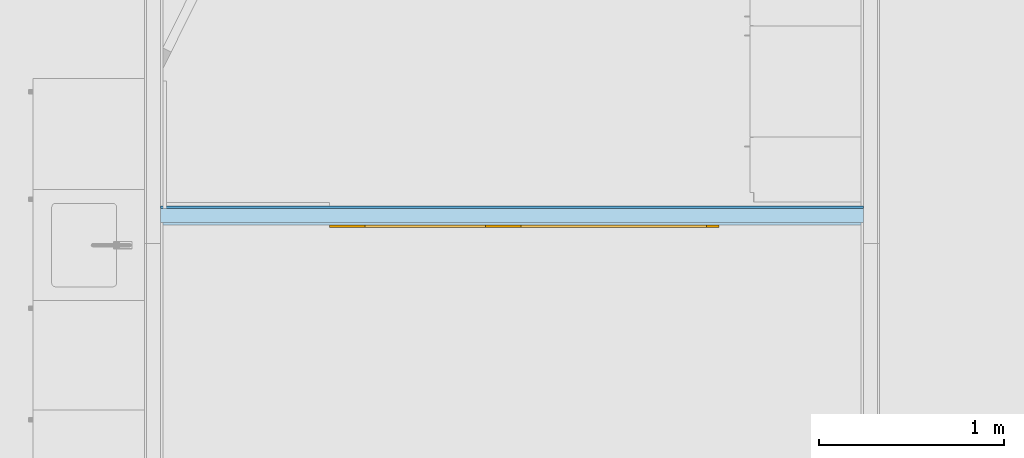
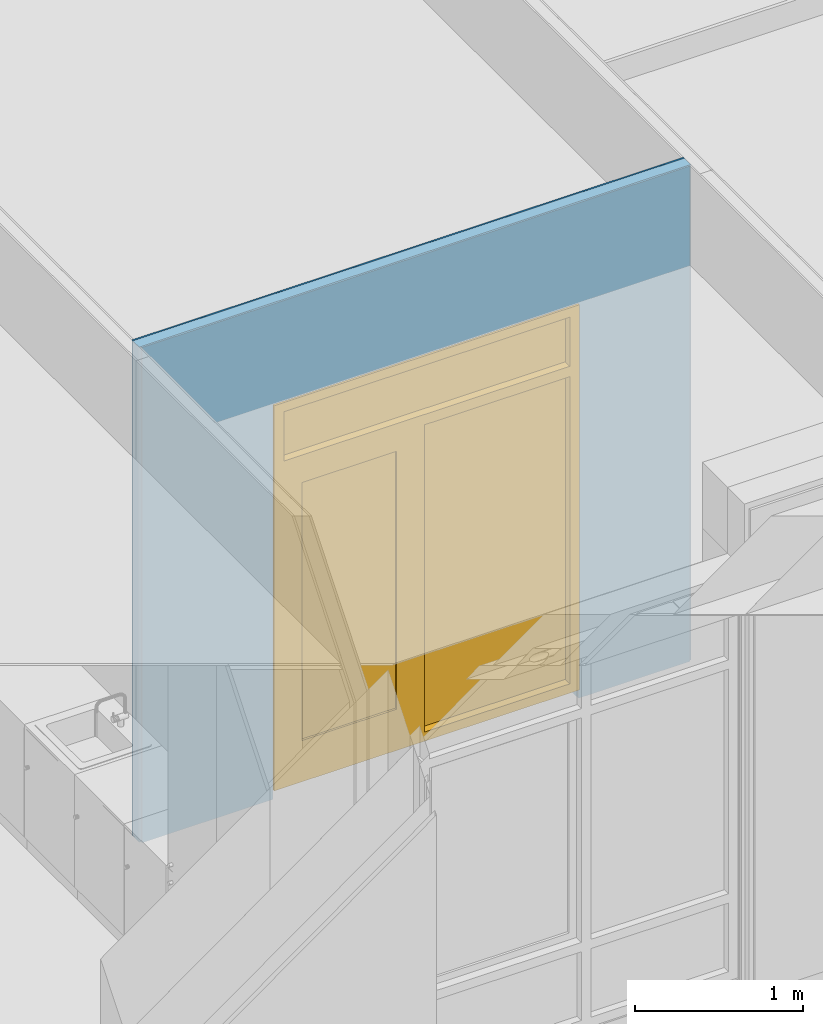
# One storey, part 49 of 167: 1 building element part, 1 door, 1 opening, 1 element without a shape of its own, plus 2 elements that do not belong to this part.
"""IFC2X3 building model written with IfcOpenShell, lengths in millimetres."""

from ifc_helpers import new_model, entity, si_unit, converted_unit, derived_unit, money_unit, direction, frame, origin_with_axes, place, context, subcontext, project, spatial, open_shell, faceted_brep, surface_model, material, type_object, element, fill, aggregate, save


model = new_model("IFC2X3")

# Units and contexts
model_context = context("Model", 3, precision=0.01, world=origin_with_axes(), true_north=direction((0.0, 1.0)))
plan_context = context("Plan", 3, precision=0.01, world=origin_with_axes(), true_north=direction((0.0, 1.0)))
body_context = subcontext(model_context, "Body", "Model", "MODEL_VIEW")
ifc_project = project(units=[si_unit("LENGTHUNIT", "METRE", prefix="MILLI"), si_unit("AREAUNIT", "SQUARE_METRE"), si_unit("VOLUMEUNIT", "CUBIC_METRE"), converted_unit("PLANEANGLEUNIT", "DEGREE", entity("IfcPlaneAngleMeasure", 0.0174532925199), si_unit("PLANEANGLEUNIT", "RADIAN"), dimensions=[0, 0, 0, 0, 0, 0, 0]), si_unit("SOLIDANGLEUNIT", "STERADIAN"), money_unit("EUR"), converted_unit("TIMEUNIT", "Year", entity("IfcTimeMeasure", 31556926.0), si_unit("TIMEUNIT", "SECOND"), dimensions=[0, 0, 1, 0, 0, 0, 0]), si_unit("MASSUNIT", "GRAM", prefix="KILO"), si_unit("THERMODYNAMICTEMPERATUREUNIT", "DEGREE_CELSIUS"), si_unit("LUMINOUSINTENSITYUNIT", "LUMEN"), si_unit("ENERGYUNIT", "JOULE", prefix="MEGA"), derived_unit("THERMALCONDUCTANCEUNIT", [(si_unit("POWERUNIT", "WATT"), 1), (si_unit("LENGTHUNIT", "METRE"), -1), (si_unit("THERMODYNAMICTEMPERATUREUNIT", "KELVIN"), -1)]), derived_unit("SPECIFICHEATCAPACITYUNIT", [(si_unit("ENERGYUNIT", "JOULE"), 1), (si_unit("MASSUNIT", "GRAM", prefix="KILO"), -1), (si_unit("THERMODYNAMICTEMPERATUREUNIT", "KELVIN"), -1)]), derived_unit("MASSDENSITYUNIT", [(si_unit("MASSUNIT", "GRAM", prefix="KILO"), 1), (si_unit("VOLUMEUNIT", "CUBIC_METRE"), -1)])], contexts=[model_context, plan_context])

# Site, building, storey
site_placement = place(None, origin_with_axes())
site = spatial("IfcSite", under=ifc_project, at=site_placement, Name="Site", CompositionType="ELEMENT")
building_placement = place(site_placement, origin_with_axes())
building = spatial("IfcBuilding", under=site, at=building_placement, Name="Naam gebouw", CompositionType="ELEMENT")
storey_placement = place(building_placement, origin_with_axes())
storey = spatial("IfcBuildingStorey", under=building, at=storey_placement, Name="Begane grond", CompositionType="ELEMENT", Elevation=0.0)

# Door
door_style = type_object("IfcDoorStyle", Name="D1 bl zl1-b 24", ConstructionType="NOTDEFINED", OperationType="SINGLE_SWING_RIGHT", ParameterTakesPrecedence=False, Sizeable=False)
wall_placement = place(storey_placement, frame((10531.8272344, 3650.0, -100.0), z_axis=(0.0, 0.0, 1.0), x_axis=(1.0, 0.0, 0.0)))
opening_placement = place(wall_placement, frame((2000.0, 0.0, 100.0), z_axis=(0.0, 0.0, 1.0), x_axis=(1.0, 0.0, 0.0)))
door_placement = place(opening_placement, frame((1050.0, 0.0, 0.0), z_axis=(0.0, 0.0, 1.0), x_axis=(-1.0, 0.0, 0.0)))
door = element("IfcDoor", 1, at=door_placement, inside=storey, type_object=door_style, Name="32_Deur_Hi-52s", ObjectType="DOOR", OverallHeight=2800.0, OverallWidth=2100.0, context=body_context, shape_type="SurfaceModel", body=[
    faceted_brep([(0.0, 64.0, 0.0), (67.0, 64.0, 0.0), (67.0, -50.0, 0.0), (0.0, -50.0, 0.0), (0.0, 64.0, 2733.0), (67.0, 64.0, 2733.0), (67.0, 64.0, 2375.0), (67.0, 64.0, 2300.0), (67.0, 64.0, 67.0), (67.0, -50.0, 67.0), (67.0, -50.0, 2300.0), (67.0, -50.0, 2375.0), (67.0, -50.0, 2733.0), (0.0, -50.0, 2733.0)], [[[0, 1, 2, 3]], [[0, 4, 5, 6, 7, 8, 1]], [[1, 8, 9, 2]], [[3, 2, 9, 10, 11, 12, 13]], [[4, 0, 3, 13]], [[5, 4, 13, 12]], [[6, 5, 12, 11]], [[7, 6, 11, 10]], [[8, 7, 10, 9]]]),
    faceted_brep([(1133.0, 24.0, 0.0), (1133.0, 24.0, 2300.0), (1133.0, -50.0, 2300.0), (1133.0, -50.0, 0.0), (1108.0, 24.0, 2300.0), (1108.0, 24.0, 0.0), (1108.0, 64.0, 2300.0), (1066.0, 64.0, 2300.0), (1066.0, -50.0, 2300.0), (1066.0, -50.0, 0.0), (1066.0, -50.0, 67.0), (1066.0, 64.0, 0.0), (1108.0, 64.0, 0.0), (1066.0, 64.0, 67.0)], [[[0, 1, 2, 3]], [[4, 1, 0, 5]], [[4, 6, 7, 8, 2, 1]], [[9, 3, 2, 8, 10]], [[5, 0, 3, 9, 11, 12]], [[6, 4, 5, 12]], [[6, 12, 11, 13, 7]], [[13, 10, 8, 7]], [[11, 9, 10, 13]]]),
    faceted_brep([(67.0, 64.0, 67.0), (67.0, 64.0, 0.0), (67.0, -50.0, 0.0), (67.0, -50.0, 67.0), (1066.0, 64.0, 67.0), (1066.0, 64.0, 0.0), (1066.0, -50.0, 0.0), (1066.0, -50.0, 67.0)], [[[0, 1, 2, 3]], [[0, 4, 5, 1]], [[1, 5, 6, 2]], [[3, 2, 6, 7]], [[4, 0, 3, 7]], [[5, 4, 7, 6]]]),
    faceted_brep([(2058.0, 64.0, 2325.0), (2033.0, 64.0, 2325.0), (2033.0, 64.0, 2375.0), (2033.0, 64.0, 2733.0), (2100.0, 64.0, 2733.0), (2100.0, 64.0, 0.0), (2058.0, 64.0, 0.0), (2058.0, 24.0, 2325.0), (2033.0, 24.0, 2325.0), (2033.0, 24.0, 0.0), (2033.0, -50.0, 0.0), (2033.0, -50.0, 2300.0), (2033.0, -50.0, 2375.0), (2033.0, -50.0, 2733.0), (2100.0, -50.0, 2733.0), (2100.0, -50.0, 0.0), (2058.0, 24.0, 0.0)], [[[0, 1, 2, 3, 4, 5, 6]], [[1, 0, 7, 8]], [[8, 9, 10, 11, 12, 2, 1]], [[2, 12, 13, 3]], [[3, 13, 14, 4]], [[4, 14, 15, 5]], [[16, 6, 5, 15, 10, 9]], [[0, 6, 16, 7]], [[16, 9, 8, 7]], [[12, 11, 10, 15, 14, 13]]]),
    faceted_brep([(0.0, 64.0, 2800.0), (0.0, 64.0, 2733.0), (0.0, -50.0, 2733.0), (0.0, -50.0, 2800.0), (2100.0, 64.0, 2800.0), (2100.0, 64.0, 2733.0), (2033.0, 64.0, 2733.0), (67.0, 64.0, 2733.0), (67.0, -50.0, 2733.0), (2033.0, -50.0, 2733.0), (2100.0, -50.0, 2733.0), (2100.0, -50.0, 2800.0)], [[[0, 1, 2, 3]], [[0, 4, 5, 6, 7, 1]], [[1, 7, 8, 2]], [[3, 2, 8, 9, 10, 11]], [[4, 0, 3, 11]], [[5, 4, 11, 10]], [[6, 5, 10, 9]], [[7, 6, 9, 8]]]),
    faceted_brep([(2033.0, 24.0, 2325.0), (2033.0, 64.0, 2325.0), (2033.0, 64.0, 2375.0), (2033.0, -50.0, 2375.0), (2033.0, -50.0, 2300.0), (2033.0, 24.0, 2300.0), (1108.0, 24.0, 2325.0), (1108.0, 64.0, 2325.0), (1108.0, 64.0, 2300.0), (1066.0, 64.0, 2300.0), (67.0, 64.0, 2300.0), (67.0, 64.0, 2375.0), (67.0, -50.0, 2375.0), (1133.0, -50.0, 2300.0), (67.0, -50.0, 2300.0), (1066.0, -50.0, 2300.0), (1133.0, 24.0, 2300.0), (1108.0, 24.0, 2300.0)], [[[0, 1, 2, 3, 4, 5]], [[1, 0, 6, 7]], [[7, 8, 9, 10, 11, 2, 1]], [[11, 12, 3, 2]], [[13, 4, 3, 12, 14, 15]], [[16, 5, 4, 13]], [[0, 5, 16, 17, 6]], [[8, 7, 6, 17]], [[17, 16, 13, 15, 9, 8]], [[9, 15, 14, 10]], [[10, 14, 12, 11]]]),
    faceted_brep([(2058.0, 64.0, 300.0), (2058.0, 24.0, 300.0), (1908.0, 24.0, 300.0), (1908.0, 64.0, 300.0), (2058.0, 64.0, 2175.0), (2058.0, 24.0, 2175.0), (1908.0, 24.0, 2175.0), (1908.0, 64.0, 2175.0)], [[[0, 1, 2, 3]], [[4, 5, 1, 0]], [[1, 5, 6, 2]], [[3, 2, 6, 7]], [[0, 3, 7, 4]], [[7, 6, 5, 4]]]),
    faceted_brep([(1108.0, 64.0, 300.0), (1108.0, 24.0, 300.0), (1108.0, 24.0, 2175.0), (1108.0, 64.0, 2175.0), (1258.0, 64.0, 300.0), (1258.0, 24.0, 300.0), (1258.0, 24.0, 2175.0), (1258.0, 64.0, 2175.0)], [[[0, 1, 2, 3]], [[4, 5, 1, 0]], [[1, 5, 6, 2]], [[3, 2, 6, 7]], [[0, 3, 7, 4]], [[7, 6, 5, 4]]]),
    faceted_brep([(2058.0, 64.0, 0.0), (2058.0, 24.0, 0.0), (1108.0, 24.0, 0.0), (1108.0, 64.0, 0.0), (2058.0, 64.0, 300.0), (2058.0, 24.0, 300.0), (1908.0, 24.0, 300.0), (1258.0, 24.0, 300.0), (1108.0, 24.0, 300.0), (1108.0, 64.0, 300.0), (1258.0, 64.0, 300.0), (1908.0, 64.0, 300.0)], [[[0, 1, 2, 3]], [[4, 5, 1, 0]], [[1, 5, 6, 7, 8, 2]], [[3, 2, 8, 9]], [[0, 3, 9, 10, 11, 4]], [[11, 6, 5, 4]], [[10, 7, 6, 11]], [[9, 8, 7, 10]]]),
    faceted_brep([(2058.0, 64.0, 2325.0), (2058.0, 24.0, 2325.0), (2058.0, 24.0, 2175.0), (2058.0, 64.0, 2175.0), (1108.0, 64.0, 2325.0), (1108.0, 24.0, 2325.0), (1108.0, 24.0, 2175.0), (1258.0, 24.0, 2175.0), (1908.0, 24.0, 2175.0), (1908.0, 64.0, 2175.0), (1258.0, 64.0, 2175.0), (1108.0, 64.0, 2175.0)], [[[0, 1, 2, 3]], [[4, 5, 1, 0]], [[1, 5, 6, 7, 8, 2]], [[3, 2, 8, 9]], [[0, 3, 9, 10, 11, 4]], [[11, 6, 5, 4]], [[10, 7, 6, 11]], [[9, 8, 7, 10]]]),
    surface_model("IfcShellBasedSurfaceModel", [(1908.0, 50.0, 300.0), (1258.0, 50.0, 300.0), (1258.0, 50.0, 2175.0), (1908.0, 50.0, 2175.0)], [open_shell([[[0, 1, 2, 3]]])]),
    surface_model("IfcShellBasedSurfaceModel", [(1908.0, 38.0, 300.0), (1908.0, 38.0, 2175.0), (1258.0, 38.0, 2175.0), (1258.0, 38.0, 300.0)], [open_shell([[[0, 1, 2, 3]]])]),
    surface_model("IfcShellBasedSurfaceModel", [(67.0, 10.0, 2375.0), (67.0, 10.0, 2733.0), (2033.0, 10.0, 2733.0), (2033.0, 10.0, 2375.0)], [open_shell([[[0, 1, 2, 3]]])]),
    surface_model("IfcShellBasedSurfaceModel", [(67.0, -2.0, 2375.0), (2033.0, -2.0, 2375.0), (2033.0, -2.0, 2733.0), (67.0, -2.0, 2733.0)], [open_shell([[[0, 1, 2, 3]]])]),
    surface_model("IfcShellBasedSurfaceModel", [(67.0, 10.0, 67.0), (67.0, 10.0, 2300.0), (1066.0, 10.0, 2300.0), (1066.0, 10.0, 67.0)], [open_shell([[[0, 1, 2, 3]]])]),
    surface_model("IfcShellBasedSurfaceModel", [(67.0, -2.0, 67.0), (1066.0, -2.0, 67.0), (1066.0, -2.0, 2300.0), (67.0, -2.0, 2300.0)], [open_shell([[[0, 1, 2, 3]]])]),
])

# Wall, opening
wall_type = type_object("IfcWallType", Name="_TenW_22_Metalstud 100 enkel gipsvezelplaat 100", PredefinedType="NOTDEFINED")
wall = element("IfcWall", 2, at=wall_placement, inside=storey, type_object=wall_type, Name="22_Wand_Wand-x")
opening = element("IfcOpeningElement", 3, at=opening_placement, cuts=wall, Name="32_Deur_Hi-52s", context=body_context, shape_type="Brep", body=[
    faceted_brep([(-1050.0, -100.0, 0.0), (-1050.0, -100.0, 2800.0), (-1050.0, 200.0, 2800.0), (-1050.0, 200.0, 0.0), (1050.0, -100.0, 0.0), (1050.0, -100.0, 2800.0), (1050.0, 200.0, 2800.0), (1050.0, 200.0, 0.0)], [[[0, 1, 2, 3]], [[0, 4, 5, 1]], [[1, 5, 6, 2]], [[3, 2, 6, 7]], [[4, 0, 3, 7]], [[5, 4, 7, 6]]]),
])

fill(opening, door)

# Building element part
ifc_material_1 = material(Name="Gipsplaat watervast")
building_element_part_1_placement = place(wall_placement, origin_with_axes())
building_element_part_1 = element("IfcBuildingElementPart", 4, at=building_element_part_1_placement, material=ifc_material_1, Name="Gipsplaat watervast", context=body_context, shape_type="Brep", body=[
    faceted_brep([(950.0, 50.0, 2900.0), (950.0, 50.0, 100.0), (950.0, 50.0, 30.0), (37.5, 50.0, 30.0), (37.5, 50.0, 3629.99999709), (3830.67276555, 50.0, 3629.99999752), (3830.67276555, 50.0, 30.0), (3050.0, 50.0, 30.0), (3050.0, 50.0, 100.0), (3050.0, 50.0, 2900.0), (50.0, 50.0, 100.0), (70.0, 50.0, 100.0), (70.0, 50.0, 1300.0), (50.0, 50.0, 1300.0), (950.0, 37.5, 2900.0), (950.0, 37.5, 100.0), (950.0, 37.5, 30.0), (37.5, 37.5, 30.0), (37.5, 37.5, 3629.99999709), (3830.67276555, 37.5, 3629.99999752), (3830.67276555, 37.5, 30.0), (3050.0, 37.5, 30.0), (3050.0, 37.5, 100.0), (3050.0, 37.5, 2900.0), (50.0, 37.5, 100.0), (70.0, 37.5, 100.0), (70.0, 37.5, 1300.0), (50.0, 37.5, 1300.0)], [[[0, 1, 2, 3, 4, 5, 6, 7, 8, 9], [10, 11, 12, 13]], [[1, 0, 14, 15]], [[1, 15, 16, 2]], [[16, 17, 3, 2]], [[17, 18, 4, 3]], [[19, 5, 4, 18]], [[6, 5, 19, 20]], [[7, 6, 20, 21]], [[22, 8, 7, 21]], [[9, 8, 22, 23]], [[0, 9, 23, 14]], [[11, 10, 24, 25]], [[12, 11, 25, 26]], [[13, 12, 26, 27]], [[10, 13, 27, 24]], [[23, 22, 21, 20, 19, 18, 17, 16, 15, 14], [24, 27, 26, 25]]]),
])

ifc_material_2 = material(Name="Isolatie - Steenwol zacht")
building_element_part_2_placement = place(wall_placement, origin_with_axes())
building_element_part_2 = element("IfcBuildingElementPart", 5, at=building_element_part_2_placement, material=ifc_material_2, Name="Isolatie - Steenwol zacht", context=body_context, shape_type="Brep", body=[
    faceted_brep([(950.0, 37.5, 2900.0), (950.0, 37.5, 100.0), (950.0, 37.5, 30.0), (37.5, 37.5, 30.0), (37.5, 37.5, 3629.99999674), (3830.67276555, 37.5, 3629.99999674), (3830.67276555, 37.5, 30.0), (3050.0, 37.5, 30.0), (3050.0, 37.5, 100.0), (3050.0, 37.5, 2900.0), (950.0, -37.5, 2900.0), (950.0, -37.5, 100.0), (950.0, -37.5, 30.0), (37.5, -37.5, 30.0), (37.5, -37.5, 3629.99999674), (3830.67276555, -37.5, 3629.99999674), (3830.67276555, -37.5, 30.0), (3050.0, -37.5, 30.0), (3050.0, -37.5, 100.0), (3050.0, -37.5, 2900.0)], [[[0, 1, 2, 3, 4, 5, 6, 7, 8, 9]], [[1, 0, 10, 11]], [[1, 11, 12, 2]], [[12, 13, 3, 2]], [[13, 14, 4, 3]], [[15, 5, 4, 14]], [[6, 5, 15, 16]], [[7, 6, 16, 17]], [[18, 8, 7, 17]], [[9, 8, 18, 19]], [[0, 9, 19, 10]], [[19, 18, 17, 16, 15, 14, 13, 12, 11, 10]]]),
])

building_element_part_3_placement = place(wall_placement, origin_with_axes())
building_element_part_3 = element("IfcBuildingElementPart", 6, at=building_element_part_3_placement, material=ifc_material_1, Name="Gipsplaat watervast", context=body_context, shape_type="Brep", body=[
    faceted_brep([(950.0, -37.5, 2900.0), (950.0, -37.5, 100.0), (950.0, -37.5, 30.0), (50.0, -37.5, 30.0), (50.0, -37.5, 3629.99999674), (3818.17276555, -37.5, 3629.99999674), (3818.17276555, -37.5, 30.0), (3050.0, -37.5, 30.0), (3050.0, -37.5, 100.0), (3050.0, -37.5, 2900.0), (950.0, -50.0, 2900.0), (950.0, -50.0, 100.0), (950.0, -50.0, 30.0), (50.0, -50.0, 30.0), (50.0, -50.0, 3629.99999674), (3818.17276555, -50.0, 3629.99999674), (3818.17276555, -50.0, 30.0), (3050.0, -50.0, 30.0), (3050.0, -50.0, 100.0), (3050.0, -50.0, 2900.0)], [[[0, 1, 2, 3, 4, 5, 6, 7, 8, 9]], [[1, 0, 10, 11]], [[1, 11, 12, 2]], [[12, 13, 3, 2]], [[13, 14, 4, 3]], [[15, 5, 4, 14]], [[6, 5, 15, 16]], [[7, 6, 16, 17]], [[18, 8, 7, 17]], [[9, 8, 18, 19]], [[0, 9, 19, 10]], [[19, 18, 17, 16, 15, 14, 13, 12, 11, 10]]]),
])

aggregate(wall, [building_element_part_1, building_element_part_2, building_element_part_3])

save(model, "model.ifc")
